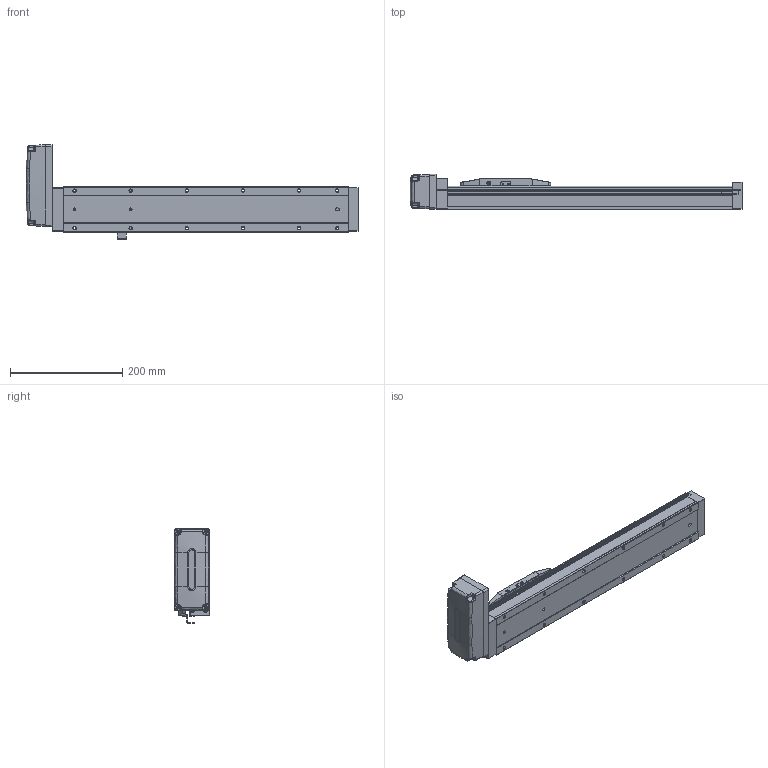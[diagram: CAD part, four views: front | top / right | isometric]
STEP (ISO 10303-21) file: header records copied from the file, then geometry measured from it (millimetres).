
FILE_DESCRIPTION (( 'STEP AP203' ), '1' );
FILE_NAME ('EFS-08L_MY.STEP', '2025-07-17T09:17:19', ( '' ), ( '' ), 'SwSTEP 2.0', 'SolidWorks 2024', '' );
FILE_SCHEMA (( 'CONFIG_CONTROL_DESIGN' ));
Length unit declared in the file: millimetre
Products named in the file (1): EFS-08L_MY
Bounding box: 591.5 x 63 x 168 mm (x, y, z)
Volume: 2194334.7 mm3; surface area: 273506.2 mm2
Topology: 15 solids, 15 shells, 931 faces, 2392 edges, 1520 vertices
Faces by surface type: plane 398, cylinder 317, cone 90, bspline 78, torus 38, sphere 10
Entity records: 32913 total; most frequent: CARTESIAN_POINT 10679, ORIENTED_EDGE 4712, DIRECTION 4481, EDGE_CURVE 2356, AXIS2_PLACEMENT_3D 1596, VERTEX_POINT 1520, VECTOR 1289, LINE 1289
